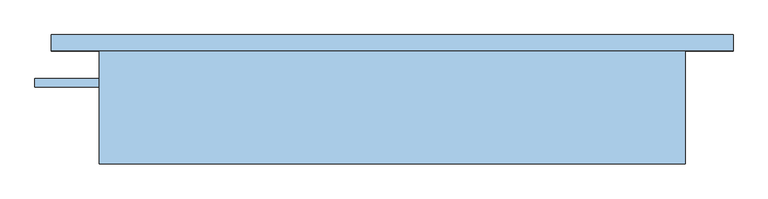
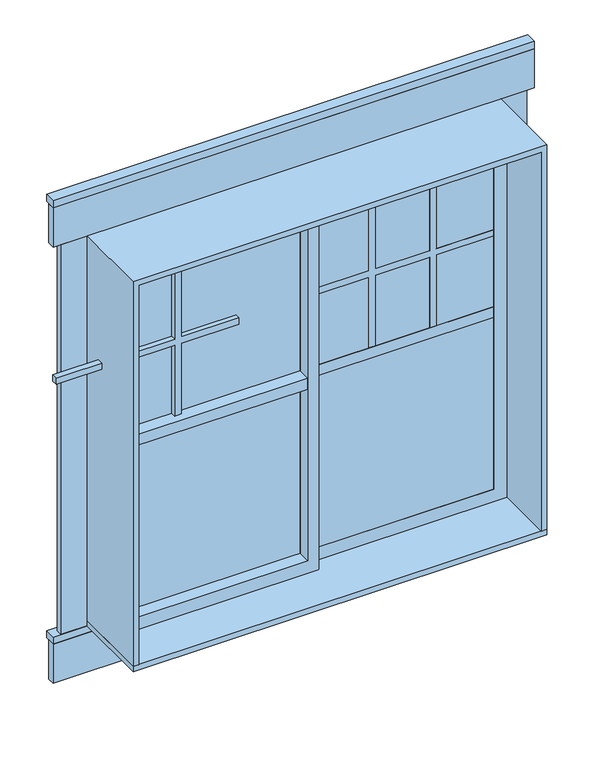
"""IFC4 building model written with IfcOpenShell, lengths in millimetres: window geometry, 窗_002 : 窗_002."""

from ifc_helpers import new_model, si_unit, frame, origin, place, context, project, spatial, polyline, outline, extrude, source, transform, mapped, element, save


def window_8c946150(model_context):
    return source(origin(), model_context, "Body", "SweptSolid", [
        extrude(outline(polyline([(2012.95, 329.7), (2012.95, -367.8), (661.05, -367.8), (661.05, 329.7), (2012.95, 329.7)]), holes=[polyline([(1968.5, -329.7), (1968.5, 285.25), (705.5, 285.25), (705.5, -329.7), (1968.5, -329.7)])]), frame((0.0, 65.15, 0.0), z_axis=(0.0, 1.0, 0.0), x_axis=(0.0, 0.0, 1.0)), (0.0, 0.0, 1.0), 44.45),
        extrude(outline(polyline([(-1160.55, 173.1), (463.05, 173.1), (463.05, 135.0), (-1160.55, 135.0), (-1160.55, 173.1)])), frame((0.0, 0.0, 2171.7), z_axis=(0.0, 0.0, 1.0), x_axis=(1.0, 0.0, 0.0)), (0.0, 0.0, 1.0), 25.4),
        extrude(outline(polyline([(-1160.55, 160.4), (463.05, 160.4), (463.05, 135.0), (-1160.55, 135.0), (-1160.55, 160.4)])), frame((0.0, 0.0, 2032.0), z_axis=(0.0, 0.0, 1.0), x_axis=(1.0, 0.0, 0.0)), (0.0, 0.0, 1.0), 139.7),
        extrude(outline(polyline([(-1160.55, 160.4), (463.05, 160.4), (463.05, 135.0), (-1160.55, 135.0), (-1160.55, 160.4)])), frame((0.0, 0.0, 476.9), z_axis=(0.0, 0.0, 1.0), x_axis=(1.0, 0.0, 0.0)), (0.0, 0.0, 1.0), 139.7),
        extrude(outline(polyline([(-1160.55, 173.1), (463.05, 173.1), (463.05, 135.0), (-1160.55, 135.0), (-1160.55, 173.1)])), frame((0.0, 0.0, 616.6), z_axis=(0.0, 0.0, 1.0), x_axis=(1.0, 0.0, 0.0)), (0.0, 0.0, 1.0), 25.4),
        extrude(outline(polyline([(-1135.15, 154.05), (-1046.25, 154.05), (-1046.25, 135.0), (-1135.15, 135.0), (-1135.15, 154.05)])), frame((0.0, 0.0, 642.0), z_axis=(0.0, 0.0, 1.0), x_axis=(1.0, 0.0, 0.0)), (0.0, 0.0, 1.0), 1390.0),
        extrude(outline(polyline([(348.75, 154.05), (437.65, 154.05), (437.65, 135.0), (348.75, 135.0), (348.75, 154.05)])), frame((0.0, 0.0, 642.0), z_axis=(0.0, 0.0, 1.0), x_axis=(1.0, 0.0, 0.0)), (0.0, 0.0, 1.0), 1390.0),
        extrude(outline(polyline([(1630.6875, -561.6708333), (1968.5, -561.6708333), (1968.5, -583.8958333), (1630.6875, -583.8958333), (1630.6875, -766.6541667), (1968.5, -766.6541667), (1968.5, -788.8791667), (1630.6875, -788.8791667), (1630.6875, -982.75), (1608.4625, -982.75), (1608.4625, -788.8791667), (1356.05, -788.8791667), (1356.05, -766.6541667), (1608.4625, -766.6541667), (1608.4625, -583.8958333), (1356.05, -583.8958333), (1356.05, -561.6708333), (1608.4625, -561.6708333), (1608.4625, -367.8), (1630.6875, -367.8), (1630.6875, -561.6708333)])), frame((0.0, 82.55, 0.0), z_axis=(0.0, 1.0, 0.0), x_axis=(0.0, 0.0, 1.0)), (0.0, 0.0, 1.0), 31.75),
        extrude(outline(polyline([(1630.6875, -778.5708333), (1968.5, -778.5708333), (1968.5, -800.7958333), (1630.6875, -800.7958333), (1630.6875, -983.5541667), (1968.5, -983.5541667), (1968.5, -1005.7791667), (1630.6875, -1005.7791667), (1630.6875, -1199.65), (1608.4625, -1199.65), (1608.4625, -1005.7791667), (1356.05, -1005.7791667), (1356.05, -983.5541667), (1608.4625, -983.5541667), (1608.4625, -800.7958333), (1356.05, -800.7958333), (1356.05, -778.5708333), (1608.4625, -778.5708333), (1608.4625, -584.7), (1630.6875, -584.7), (1630.6875, -778.5708333)])), frame((0.0, 48.5865764, 0.0), z_axis=(0.0, 1.0, 0.0), x_axis=(0.0, 0.0, 1.0)), (0.0, 0.0, 1.0), 20.4130864),
        extrude(outline(polyline([(1630.6875, 91.3791667), (1968.5, 91.3791667), (1968.5, 69.1541667), (1630.6875, 69.1541667), (1630.6875, -113.6041667), (1968.5, -113.6041667), (1968.5, -135.8291667), (1630.6875, -135.8291667), (1630.6875, -329.7), (1608.4625, -329.7), (1608.4625, -135.8291667), (1356.05, -135.8291667), (1356.05, -113.6041667), (1608.4625, -113.6041667), (1608.4625, 69.1541667), (1356.05, 69.1541667), (1356.05, 91.3791667), (1608.4625, 91.3791667), (1608.4625, 285.25), (1630.6875, 285.25), (1630.6875, 91.3791667)])), frame((0.0, 65.15, 0.0), z_axis=(0.0, 1.0, 0.0), x_axis=(0.0, 0.0, 1.0)), (0.0, 0.0, 1.0), 31.75),
        extrude(outline(polyline([(-367.8, 20.7), (-982.75, 20.7), (-982.75, 65.15), (-367.8, 65.15), (-367.8, 20.7)])), frame((0.0, 0.0, 1317.95), z_axis=(0.0, 0.0, 1.0), x_axis=(1.0, 0.0, 0.0)), (0.0, 0.0, 1.0), 38.1),
        extrude(outline(polyline([(-329.7, 109.6), (285.25, 109.6), (285.25, 65.15), (-329.7, 65.15), (-329.7, 109.6)])), frame((0.0, 0.0, 1317.95), z_axis=(0.0, 0.0, 1.0), x_axis=(1.0, 0.0, 0.0)), (0.0, 0.0, 1.0), 38.1),
        extrude(outline(polyline([(-367.8, 65.15), (-982.75, 65.15), (-982.75, 68.9996628), (-367.8, 68.9996628), (-367.8, 65.15)])), frame((0.0, 0.0, 705.5), z_axis=(0.0, 0.0, 1.0), x_axis=(1.0, 0.0, 0.0)), (0.0, 0.0, 1.0), 1263.0),
        extrude(outline(polyline([(2012.95, -1027.2), (661.05, -1027.2), (661.05, -329.7), (2012.95, -329.7), (2012.95, -1027.2)]), holes=[polyline([(1968.5, -982.75), (1968.5, -367.8), (705.5, -367.8), (705.5, -982.75), (1968.5, -982.75)])]), frame((0.0, 20.7, 0.0), z_axis=(0.0, 1.0, 0.0), x_axis=(0.0, 0.0, 1.0)), (0.0, 0.0, 1.0), 44.45),
        extrude(outline(polyline([(2032.0, -1046.25), (661.05, -1046.25), (661.05, -1027.2), (2012.95, -1027.2), (2012.95, 329.7), (661.05, 329.7), (661.05, 348.75), (2032.0, 348.75), (2032.0, -1046.25)])), frame((0.0, -135.0, 0.0), z_axis=(0.0, 1.0, 0.0), x_axis=(0.0, 0.0, 1.0)), (0.0, 0.0, 1.0), 270.0),
        extrude(outline(polyline([(-1046.25, -135.0), (-1046.25, 135.0), (348.75, 135.0), (348.75, -135.0), (-1046.25, -135.0)])), frame((0.0, 0.0, 642.0), z_axis=(0.0, 0.0, 1.0), x_axis=(1.0, 0.0, 0.0)), (0.0, 0.0, 1.0), 19.05),
        extrude(outline(polyline([(285.25, 65.15), (-329.7, 65.15), (-329.7, 96.9), (285.25, 96.9), (285.25, 65.15)])), frame((0.0, 0.0, 705.5), z_axis=(0.0, 0.0, 1.0), x_axis=(1.0, 0.0, 0.0)), (0.0, 0.0, 1.0), 1263.0),
    ])


if __name__ == "__main__":
    model = new_model("IFC4")
    model_context = context("Model", 3, world=origin())
    ifc_project = project(units=[si_unit("LENGTHUNIT", "METRE", prefix="MILLI")], contexts=[model_context])
    site = spatial("IfcSite", under=ifc_project)
    building = spatial("IfcBuilding", under=site)
    placement = place(None, origin())
    window_shape = window_8c946150(model_context)
    element("IfcWindow", 1, ObjectType="窗_002 : 窗_002", at=placement, inside=building, context=model_context, shape_type="MappedRepresentation", body=[
        mapped(window_shape, transform((0.0, 0.0, 0.0), x_axis=(1.0, 0.0, 0.0), y_axis=(0.0, 1.0, 0.0), z_axis=(0.0, 0.0, 1.0))),
    ])
    save(model, "model.ifc")
